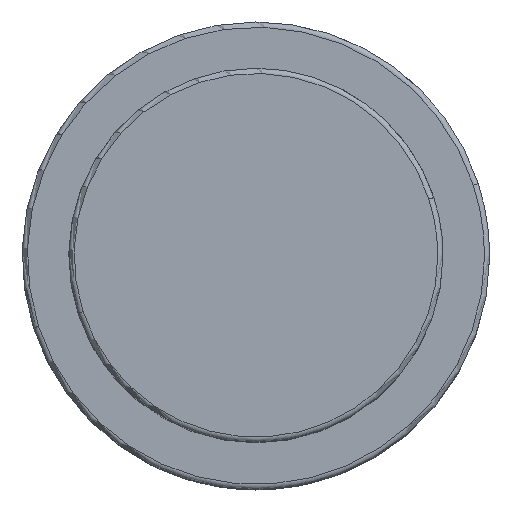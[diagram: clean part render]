
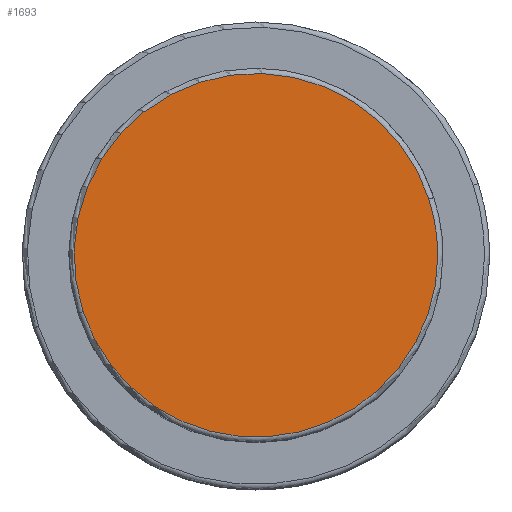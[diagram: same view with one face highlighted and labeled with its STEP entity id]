
A CAD part, top view. The second image highlights one B-rep face of the part: STEP entity #1693.
In plain terms, the highlighted planar face has unit normal (0, 0, 1).
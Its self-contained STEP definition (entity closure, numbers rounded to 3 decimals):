
#1626=CARTESIAN_POINT('',(16.643,5.408,53.0));
#1627=VERTEX_POINT('',#1626);
#1645=CARTESIAN_POINT('',(-16.643,-5.408,53.0));
#1646=VERTEX_POINT('',#1645);
#1654=CARTESIAN_POINT('',(0.0,0.0,53.0));
#1655=DIRECTION('',(0.0,0.0,1.0));
#1656=DIRECTION('',(1.0,0.0,0.0));
#1657=AXIS2_PLACEMENT_3D('',#1654,#1655,#1656);
#1658=CIRCLE('',#1657,17.5);
#1659=EDGE_CURVE('no 1873',#1627,#1646,#1658,.T.);
#1669=CARTESIAN_POINT('',(17.5,0.0,53.0));
#1670=VERTEX_POINT('',#1669);
#1671=CARTESIAN_POINT('',(0.0,0.0,53.0));
#1672=DIRECTION('',(0.0,0.0,1.0));
#1673=DIRECTION('',(1.0,0.0,0.0));
#1674=AXIS2_PLACEMENT_3D('',#1671,#1672,#1673);
#1675=CIRCLE('',#1674,17.5);
#1676=EDGE_CURVE('no 1882',#1670,#1627,#1675,.T.);
#1677=ORIENTED_EDGE('',*,*,#1676,.T.);
#1678=ORIENTED_EDGE('',*,*,#1659,.T.);
#1679=CARTESIAN_POINT('',(0.0,0.0,53.0));
#1680=DIRECTION('',(0.0,0.0,1.0));
#1681=DIRECTION('',(1.0,0.0,0.0));
#1682=AXIS2_PLACEMENT_3D('',#1679,#1680,#1681);
#1683=CIRCLE('',#1682,17.5);
#1684=EDGE_CURVE('no 1888',#1646,#1670,#1683,.T.);
#1685=ORIENTED_EDGE('',*,*,#1684,.T.);
#1686=EDGE_LOOP('',(#1677,#1678,#1685));
#1687=FACE_OUTER_BOUND('',#1686,.T.);
#1688=CARTESIAN_POINT('',(0.0,0.0,53.0));
#1689=DIRECTION('',(0.0,0.0,1.0));
#1690=DIRECTION('',(1.0,0.0,0.0));
#1691=AXIS2_PLACEMENT_3D('',#1688,#1689,#1690);
#1692=PLANE('',#1691);
#1693=ADVANCED_FACE('no 1875',(#1687),#1692,.T.);
